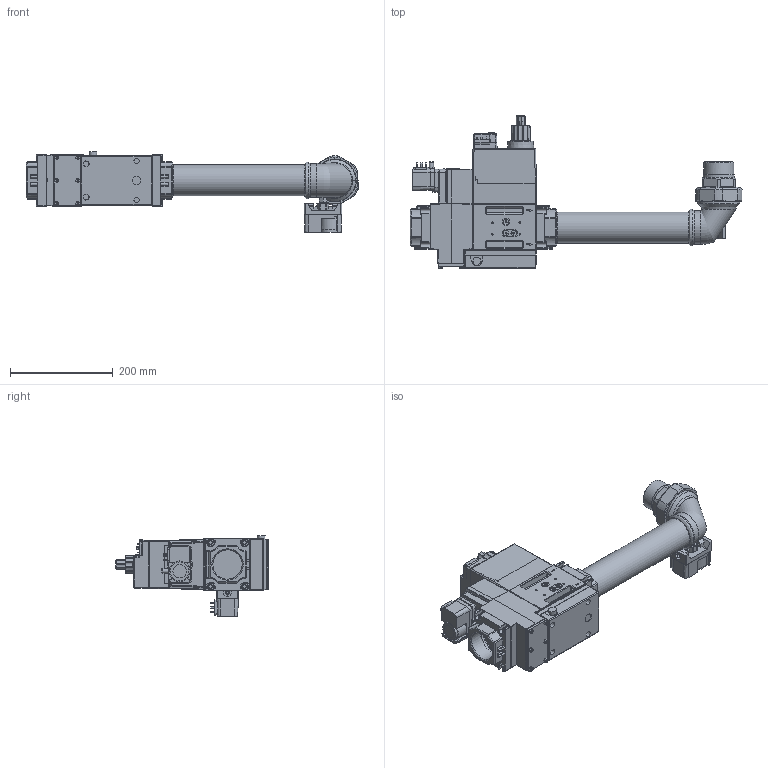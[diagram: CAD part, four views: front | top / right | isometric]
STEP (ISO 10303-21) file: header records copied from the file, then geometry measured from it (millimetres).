
FILE_DESCRIPTION (( 'STEP AP214' ), '1' );
FILE_NAME ('19990715.STEP', '2025-02-14T06:45:22', ( '' ), ( '' ), 'SwSTEP 2.0', 'SolidWorks 2021', '' );
FILE_SCHEMA (( 'AUTOMOTIVE_DESIGN' ));
Length unit declared in the file: millimetre
Products named in the file (1): 19990715
Bounding box: 644.7 x 296 x 156.25 mm (x, y, z)
Surface area: 573169.9 mm2 (no closed solid volume)
Topology: 0 solids, 569 shells, 2570 faces, 7531 edges, 5543 vertices
Faces by surface type: plane 1033, cylinder 772, bspline 489, cone 198, torus 62, sphere 16
Full cylindrical faces by diameter (mm): 0.7 x2, 1.5 x4, 2 x2, 2.5 x8, 3.7 x3, 4 x4, 4.5 x1, 4.8 x1, 6.2 x1, 6.647 x8, 6.75 x2, 6.917 x8, 7 x1, 8 x3, 8.5 x6, 8.57 x1, 8.8 x1, 9 x2, 9.3 x1, 9.73 x1, 10 x3, 10.5 x6, 10.6 x1, 10.96 x2, 11 x7, 12.5 x2, 13.16 x1, 15 x4, 15.2 x1, 15.3 x1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
Entity records: 182719 total; most frequent: CARTESIAN_POINT 94045, ORIENTED_EDGE 11976, DIRECTION 10273, EDGE_CURVE 7112, VERTEX_POINT 5444, AXIS2_PLACEMENT_3D 3544, LINE 3185, VECTOR 3185
